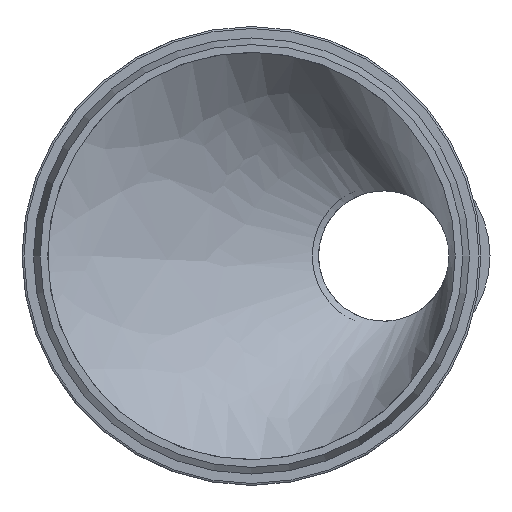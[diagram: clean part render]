
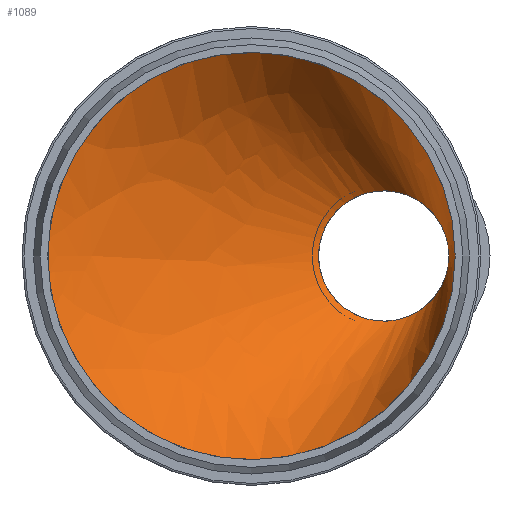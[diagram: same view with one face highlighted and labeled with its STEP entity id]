
A CAD part, front view. The second image highlights one B-rep face of the part: STEP entity #1089.
In plain terms, the highlighted free-form (B-spline) face has degree [1, 2] with [2, 9] control points.
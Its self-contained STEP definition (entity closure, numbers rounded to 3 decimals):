
#202=FACE_OUTER_BOUND($,#262,.T.);
#262=EDGE_LOOP($,(#729,#730,#731,#732,#733,#734));
#364=B_SPLINE_CURVE_WITH_KNOTS($,1,(#1611,#1612),.UNSPECIFIED.,.F.,.F.,
(2,2),(0.,3.397),.UNSPECIFIED.);
#414=CIRCLE($,#1162,16.475);
#415=CIRCLE($,#1163,16.475);
#416=CIRCLE($,#1164,51.5);
#417=CIRCLE($,#1165,51.5);
#473=VERTEX_POINT($,#1606);
#474=VERTEX_POINT($,#1607);
#475=VERTEX_POINT($,#1610);
#476=VERTEX_POINT($,#1613);
#584=EDGE_CURVE($,#473,#474,#414,.T.);
#585=EDGE_CURVE($,#474,#473,#415,.T.);
#586=EDGE_CURVE($,#474,#475,#364,.T.);
#587=EDGE_CURVE($,#475,#476,#416,.T.);
#588=EDGE_CURVE($,#476,#475,#417,.T.);
#729=ORIENTED_EDGE($,*,*,#584,.F.);
#730=ORIENTED_EDGE($,*,*,#585,.F.);
#731=ORIENTED_EDGE($,*,*,#586,.T.);
#732=ORIENTED_EDGE($,*,*,#587,.T.);
#733=ORIENTED_EDGE($,*,*,#588,.T.);
#734=ORIENTED_EDGE($,*,*,#586,.F.);
#1019=(
BOUNDED_SURFACE()
B_SPLINE_SURFACE(1,2,((#1588,#1589,#1590,#1591,#1592,#1593,#1594,#1595,
#1596),(#1597,#1598,#1599,#1600,#1601,#1602,#1603,#1604,#1605)),
 .UNSPECIFIED.,.F.,.T.,.F.)
B_SPLINE_SURFACE_WITH_KNOTS((2,2),(3,2,2,2,3),(-0.435,6.415),
(-3.142,-1.571,0.,1.571,3.142),
 .UNSPECIFIED.)
GEOMETRIC_REPRESENTATION_ITEM()
RATIONAL_B_SPLINE_SURFACE(((1.,0.707,1.,0.707,1.,
0.707,1.,0.707,1.),(1.,0.707,1.,0.707,
1.,0.707,1.,0.707,1.)))
REPRESENTATION_ITEM($)
SURFACE()
);
#1089=ADVANCED_FACE($,(#202),#1019,.T.);
#1162=AXIS2_PLACEMENT_3D($,#1608,#1293,#1294);
#1163=AXIS2_PLACEMENT_3D($,#1609,#1295,#1296);
#1164=AXIS2_PLACEMENT_3D($,#1614,#1297,#1298);
#1165=AXIS2_PLACEMENT_3D($,#1615,#1299,#1300);
#1293=DIRECTION('center_axis',(0.,-1.,0.));
#1294=DIRECTION('ref_axis',(1.,0.,0.));
#1295=DIRECTION('center_axis',(0.,-1.,0.));
#1296=DIRECTION('ref_axis',(1.,0.,0.));
#1297=DIRECTION('center_axis',(0.,-1.,0.));
#1298=DIRECTION('ref_axis',(1.,0.,0.));
#1299=DIRECTION('center_axis',(0.,-1.,0.));
#1300=DIRECTION('ref_axis',(1.,0.,0.));
#1588=CARTESIAN_POINT('Ctrl Pts',(42.193,115.78,11.122));
#1589=CARTESIAN_POINT('Ctrl Pts',(34.481,120.261,11.122));
#1590=CARTESIAN_POINT('Ctrl Pts',(34.481,120.261,0.));
#1591=CARTESIAN_POINT('Ctrl Pts',(34.481,120.261,-11.122));
#1592=CARTESIAN_POINT('Ctrl Pts',(42.193,115.78,-11.122));
#1593=CARTESIAN_POINT('Ctrl Pts',(49.905,111.3,-11.122));
#1594=CARTESIAN_POINT('Ctrl Pts',(49.905,111.3,0.));
#1595=CARTESIAN_POINT('Ctrl Pts',(49.905,111.3,11.122));
#1596=CARTESIAN_POINT('Ctrl Pts',(42.193,115.78,11.122));
#1597=CARTESIAN_POINT('Ctrl Pts',(1.188,45.2,76.629));
#1598=CARTESIAN_POINT('Ctrl Pts',(-51.948,76.071,76.629));
#1599=CARTESIAN_POINT('Ctrl Pts',(-51.948,76.071,0.));
#1600=CARTESIAN_POINT('Ctrl Pts',(-51.948,76.071,-76.629));
#1601=CARTESIAN_POINT('Ctrl Pts',(1.188,45.2,-76.629));
#1602=CARTESIAN_POINT('Ctrl Pts',(54.324,14.33,-76.629));
#1603=CARTESIAN_POINT('Ctrl Pts',(54.324,14.33,0.));
#1604=CARTESIAN_POINT('Ctrl Pts',(54.324,14.33,76.629));
#1605=CARTESIAN_POINT('Ctrl Pts',(1.188,45.2,76.629));
#1606=CARTESIAN_POINT('',(49.905,111.3,0.));
#1607=CARTESIAN_POINT('',(39.59,111.3,15.28));
#1608=CARTESIAN_POINT('Origin',(33.43,111.3,0.));
#1609=CARTESIAN_POINT('Origin',(33.43,111.3,0.));
#1610=CARTESIAN_POINT('',(19.256,76.3,47.765));
#1611=CARTESIAN_POINT('Ctrl Pts',(39.59,111.3,15.28));
#1612=CARTESIAN_POINT('Ctrl Pts',(19.256,76.3,47.765));
#1613=CARTESIAN_POINT('',(51.5,76.3,0.));
#1614=CARTESIAN_POINT('Origin',(0.,76.3,0.));
#1615=CARTESIAN_POINT('Origin',(0.,76.3,0.));
